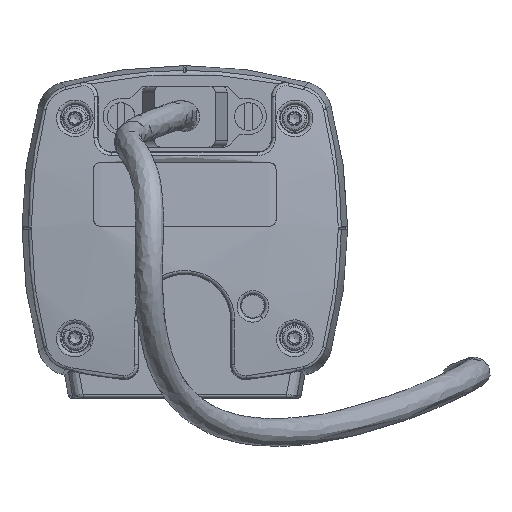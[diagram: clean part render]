
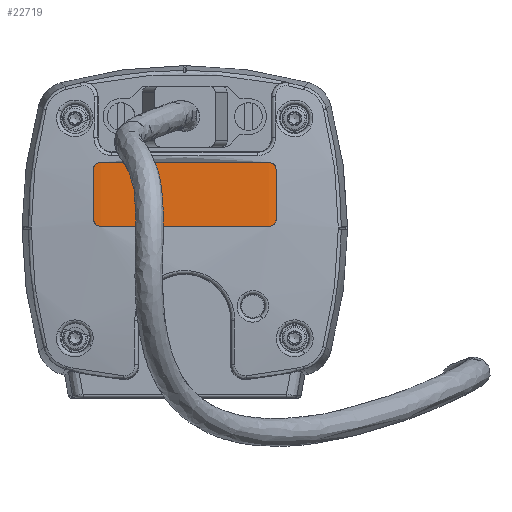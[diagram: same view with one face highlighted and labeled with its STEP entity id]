
A CAD part, left-side view. The second image highlights one B-rep face of the part: STEP entity #22719.
In plain terms, the highlighted conical face has half-angle 0.302 degrees and reference radius 149.402 mm.
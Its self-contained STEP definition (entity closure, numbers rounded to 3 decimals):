
#786=B_SPLINE_CURVE_WITH_KNOTS('',3,(#55058,#55059,#55060,#55061,#55062,
#55063,#55064,#55065,#55066,#55067,#55068,#55069,#55070,#55071,#55072),
 .UNSPECIFIED.,.F.,.F.,(4,2,2,2,2,3,4),(0.452,0.452,
0.49,0.528,0.565,0.603,
0.603),.UNSPECIFIED.);
#788=B_SPLINE_CURVE_WITH_KNOTS('',3,(#55108,#55109,#55110,#55111,#55112,
#55113),.UNSPECIFIED.,.F.,.F.,(4,2,4),(-2.383,-1.191,
0.),.UNSPECIFIED.);
#790=B_SPLINE_CURVE_WITH_KNOTS('',3,(#55124,#55125,#55126,#55127,#55128,
#55129,#55130,#55131,#55132,#55133,#55134,#55135,#55136,#55137),
 .UNSPECIFIED.,.F.,.F.,(4,2,2,2,2,2,4),(0.301,0.302,
0.339,0.377,0.415,0.452,0.453),
 .UNSPECIFIED.);
#792=B_SPLINE_CURVE_WITH_KNOTS('',3,(#55160,#55161,#55162,#55163,#55164,
#55165,#55166,#55167,#55168,#55169,#55170,#55171),.UNSPECIFIED.,.F.,.F.,
(4,2,2,2,2,4),(0.453,0.453,0.491,0.528,
0.566,0.604),.UNSPECIFIED.);
#794=B_SPLINE_CURVE_WITH_KNOTS('',3,(#55203,#55204,#55205,#55206,#55207,
#55208),.UNSPECIFIED.,.F.,.F.,(4,2,4),(-2.383,-1.192,
0.),.UNSPECIFIED.);
#795=B_SPLINE_CURVE_WITH_KNOTS('',3,(#55211,#55212,#55213,#55214,#55215,
#55216,#55217,#55218,#55219,#55220,#55221,#55222),.UNSPECIFIED.,.F.,.F.,
(4,2,2,2,2,4),(0.302,0.34,0.378,0.415,
0.453,0.453),.UNSPECIFIED.);
#2846=FACE_OUTER_BOUND('',#4077,.T.);
#4077=EDGE_LOOP('',(#18636,#18637,#18638,#18639,#18640,#18641,#18642,#18643));
#5587=LINE('',#55050,#7179);
#5593=LINE('',#55156,#7185);
#7179=VECTOR('',#28989,10.);
#7185=VECTOR('',#29005,10.);
#10088=VERTEX_POINT('',#55048);
#10089=VERTEX_POINT('',#55049);
#10092=VERTEX_POINT('',#55057);
#10094=VERTEX_POINT('',#55107);
#10096=VERTEX_POINT('',#55123);
#10099=VERTEX_POINT('',#55155);
#10100=VERTEX_POINT('',#55159);
#10103=VERTEX_POINT('',#55202);
#13002=EDGE_CURVE('',#10088,#10089,#5587,.T.);
#13006=EDGE_CURVE('',#10092,#10089,#786,.T.);
#13009=EDGE_CURVE('',#10092,#10094,#788,.F.);
#13012=EDGE_CURVE('',#10096,#10094,#790,.T.);
#13016=EDGE_CURVE('',#10096,#10099,#5593,.T.);
#13018=EDGE_CURVE('',#10100,#10099,#792,.T.);
#13022=EDGE_CURVE('',#10100,#10103,#794,.F.);
#13024=EDGE_CURVE('',#10088,#10103,#795,.T.);
#18636=ORIENTED_EDGE('',*,*,#13009,.F.);
#18637=ORIENTED_EDGE('',*,*,#13006,.T.);
#18638=ORIENTED_EDGE('',*,*,#13002,.F.);
#18639=ORIENTED_EDGE('',*,*,#13024,.T.);
#18640=ORIENTED_EDGE('',*,*,#13022,.F.);
#18641=ORIENTED_EDGE('',*,*,#13018,.T.);
#18642=ORIENTED_EDGE('',*,*,#13016,.F.);
#18643=ORIENTED_EDGE('',*,*,#13012,.T.);
#20649=CONICAL_SURFACE('',#24564,149.402,0.005);
#22719=ADVANCED_FACE('',(#2846),#20649,.T.);
#24564=AXIS2_PLACEMENT_3D('',#58816,#29418,#29419);
#28989=DIRECTION('',(0.049,0.,0.999));
#29005=DIRECTION('',(-0.049,0.,-0.999));
#29418=DIRECTION('center_axis',(-0.044,0.,
-0.999));
#29419=DIRECTION('ref_axis',(-0.999,0.,0.044));
#55048=CARTESIAN_POINT('',(-200.164,-22.303,-5.289));
#55049=CARTESIAN_POINT('',(-199.822,-22.303,1.696));
#55050=CARTESIAN_POINT('',(-200.164,-22.303,-5.289));
#55057=CARTESIAN_POINT('',(-199.856,-23.304,2.698));
#55058=CARTESIAN_POINT('Ctrl Pts',(-199.856,-23.304,
2.698));
#55059=CARTESIAN_POINT('Ctrl Pts',(-199.856,-23.303,
2.698));
#55060=CARTESIAN_POINT('Ctrl Pts',(-199.856,-23.302,2.698));
#55061=CARTESIAN_POINT('Ctrl Pts',(-199.846,-23.176,
2.698));
#55062=CARTESIAN_POINT('Ctrl Pts',(-199.836,-23.042,
2.672));
#55063=CARTESIAN_POINT('Ctrl Pts',(-199.821,-22.796,
2.57));
#55064=CARTESIAN_POINT('Ctrl Pts',(-199.815,-22.684,
2.492));
#55065=CARTESIAN_POINT('Ctrl Pts',(-199.809,-22.507,
2.314));
#55066=CARTESIAN_POINT('Ctrl Pts',(-199.808,-22.43,2.202));
#55067=CARTESIAN_POINT('Ctrl Pts',(-199.811,-22.328,
1.955));
#55068=CARTESIAN_POINT('Ctrl Pts',(-199.816,-22.303,
1.822));
#55069=CARTESIAN_POINT('Ctrl Pts',(-199.822,-22.303,1.696));
#55070=CARTESIAN_POINT('Ctrl Pts',(-199.822,-22.303,
1.696));
#55071=CARTESIAN_POINT('Ctrl Pts',(-199.822,-22.303,
1.696));
#55072=CARTESIAN_POINT('Ctrl Pts',(-199.822,-22.303,1.696));
#55107=CARTESIAN_POINT('',(-199.856,-47.102,2.698));
#55108=CARTESIAN_POINT('Ctrl Pts',(-199.856,-47.102,
2.698));
#55109=CARTESIAN_POINT('Ctrl Pts',(-200.173,-43.144,
2.698));
#55110=CARTESIAN_POINT('Ctrl Pts',(-200.331,-39.174,2.698));
#55111=CARTESIAN_POINT('Ctrl Pts',(-200.331,-31.232,
2.698));
#55112=CARTESIAN_POINT('Ctrl Pts',(-200.173,-27.263,
2.698));
#55113=CARTESIAN_POINT('Ctrl Pts',(-199.856,-23.304,
2.698));
#55123=CARTESIAN_POINT('',(-199.822,-48.103,1.696));
#55124=CARTESIAN_POINT('Ctrl Pts',(-199.822,-48.103,1.696));
#55125=CARTESIAN_POINT('Ctrl Pts',(-199.822,-48.103,
1.696));
#55126=CARTESIAN_POINT('Ctrl Pts',(-199.822,-48.103,
1.696));
#55127=CARTESIAN_POINT('Ctrl Pts',(-199.816,-48.103,1.822));
#55128=CARTESIAN_POINT('Ctrl Pts',(-199.811,-48.078,
1.955));
#55129=CARTESIAN_POINT('Ctrl Pts',(-199.808,-47.976,2.202));
#55130=CARTESIAN_POINT('Ctrl Pts',(-199.809,-47.899,
2.314));
#55131=CARTESIAN_POINT('Ctrl Pts',(-199.815,-47.722,
2.492));
#55132=CARTESIAN_POINT('Ctrl Pts',(-199.821,-47.61,
2.57));
#55133=CARTESIAN_POINT('Ctrl Pts',(-199.836,-47.364,
2.672));
#55134=CARTESIAN_POINT('Ctrl Pts',(-199.846,-47.23,
2.698));
#55135=CARTESIAN_POINT('Ctrl Pts',(-199.856,-47.104,
2.698));
#55136=CARTESIAN_POINT('Ctrl Pts',(-199.856,-47.103,
2.698));
#55137=CARTESIAN_POINT('Ctrl Pts',(-199.856,-47.102,
2.698));
#55155=CARTESIAN_POINT('',(-200.164,-48.103,-5.289));
#55156=CARTESIAN_POINT('',(-199.822,-48.103,1.696));
#55159=CARTESIAN_POINT('',(-200.296,-47.106,-6.291));
#55160=CARTESIAN_POINT('Ctrl Pts',(-200.296,-47.106,
-6.291));
#55161=CARTESIAN_POINT('Ctrl Pts',(-200.296,-47.106,
-6.291));
#55162=CARTESIAN_POINT('Ctrl Pts',(-200.296,-47.106,
-6.291));
#55163=CARTESIAN_POINT('Ctrl Pts',(-200.286,-47.231,
-6.291));
#55164=CARTESIAN_POINT('Ctrl Pts',(-200.274,-47.365,
-6.266));
#55165=CARTESIAN_POINT('Ctrl Pts',(-200.248,-47.611,
-6.163));
#55166=CARTESIAN_POINT('Ctrl Pts',(-200.235,-47.723,-6.086));
#55167=CARTESIAN_POINT('Ctrl Pts',(-200.212,-47.9,
-5.908));
#55168=CARTESIAN_POINT('Ctrl Pts',(-200.199,-47.977,
-5.796));
#55169=CARTESIAN_POINT('Ctrl Pts',(-200.179,-48.078,-5.549));
#55170=CARTESIAN_POINT('Ctrl Pts',(-200.17,-48.103,-5.415));
#55171=CARTESIAN_POINT('Ctrl Pts',(-200.164,-48.103,
-5.289));
#55202=CARTESIAN_POINT('',(-200.296,-23.301,-6.291));
#55203=CARTESIAN_POINT('Ctrl Pts',(-200.296,-23.301,
-6.291));
#55204=CARTESIAN_POINT('Ctrl Pts',(-200.612,-27.26,
-6.291));
#55205=CARTESIAN_POINT('Ctrl Pts',(-200.771,-31.231,
-6.291));
#55206=CARTESIAN_POINT('Ctrl Pts',(-200.771,-39.175,-6.291));
#55207=CARTESIAN_POINT('Ctrl Pts',(-200.612,-43.146,-6.291));
#55208=CARTESIAN_POINT('Ctrl Pts',(-200.296,-47.106,
-6.291));
#55211=CARTESIAN_POINT('Ctrl Pts',(-200.164,-22.303,-5.289));
#55212=CARTESIAN_POINT('Ctrl Pts',(-200.17,-22.303,
-5.415));
#55213=CARTESIAN_POINT('Ctrl Pts',(-200.179,-22.328,
-5.549));
#55214=CARTESIAN_POINT('Ctrl Pts',(-200.199,-22.43,
-5.796));
#55215=CARTESIAN_POINT('Ctrl Pts',(-200.212,-22.507,
-5.908));
#55216=CARTESIAN_POINT('Ctrl Pts',(-200.235,-22.683,
-6.086));
#55217=CARTESIAN_POINT('Ctrl Pts',(-200.248,-22.795,
-6.163));
#55218=CARTESIAN_POINT('Ctrl Pts',(-200.274,-23.041,
-6.266));
#55219=CARTESIAN_POINT('Ctrl Pts',(-200.286,-23.175,-6.291));
#55220=CARTESIAN_POINT('Ctrl Pts',(-200.296,-23.301,
-6.291));
#55221=CARTESIAN_POINT('Ctrl Pts',(-200.296,-23.301,
-6.291));
#55222=CARTESIAN_POINT('Ctrl Pts',(-200.296,-23.301,
-6.291));
#58816=CARTESIAN_POINT('Origin',(-50.401,-35.203,9.879));
